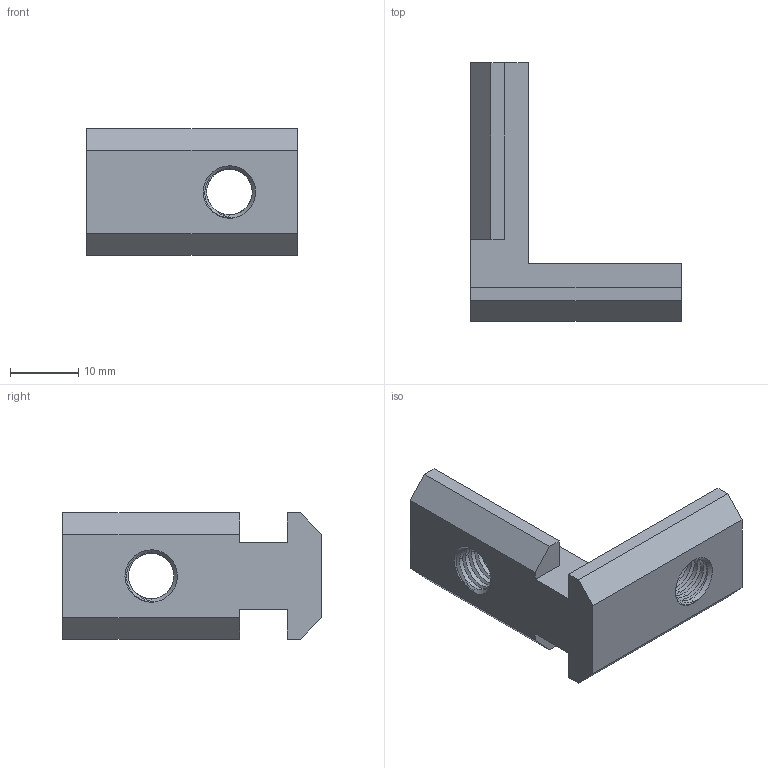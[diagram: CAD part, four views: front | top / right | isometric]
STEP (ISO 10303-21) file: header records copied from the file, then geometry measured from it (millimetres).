
FILE_DESCRIPTION (( 'STEP AP203' ), '1' );
FILE_NAME ('77-CE-IE4545-10.STEP', '2015-07-09T08:27:02', ( '' ), ( '' ), 'SwSTEP 2.0', 'SolidWorks 2013', '' );
FILE_SCHEMA (( 'CONFIG_CONTROL_DESIGN' ));
Length unit declared in the file: millimetre
Products named in the file (1): 77-CE-IE4545-10
Bounding box: 31 x 38 x 18.6 mm (x, y, z)
Volume: 6350.7 mm3; surface area: 3683.2 mm2
Topology: 1 solids, 1 shells, 68 faces, 188 edges, 122 vertices
Faces by surface type: cylinder 28, plane 22, cone 14, bspline 4
Entity records: 4575 total; most frequent: CARTESIAN_POINT 2945, ORIENTED_EDGE 376, DIRECTION 270, EDGE_CURVE 188, VERTEX_POINT 122, VECTOR 96, LINE 96, AXIS2_PLACEMENT_3D 87
